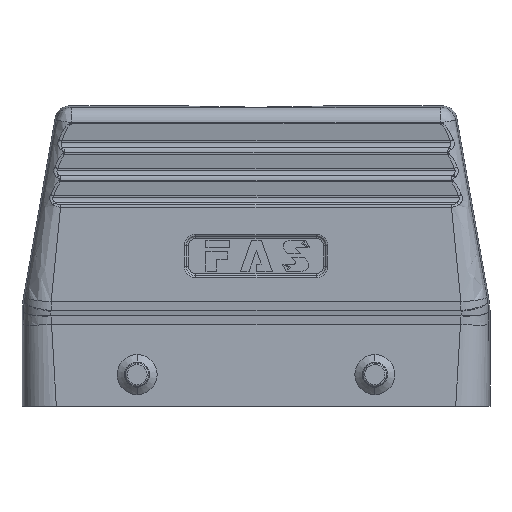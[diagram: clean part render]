
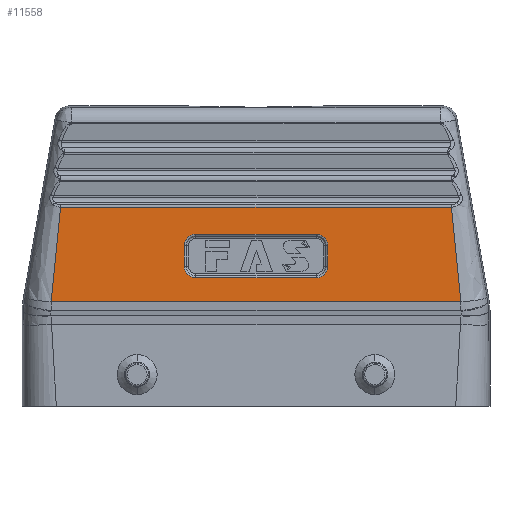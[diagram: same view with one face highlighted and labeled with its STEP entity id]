
A CAD part, front view. The second image highlights one B-rep face of the part: STEP entity #11558.
In plain terms, the highlighted planar face has unit normal (0, -1, 0).
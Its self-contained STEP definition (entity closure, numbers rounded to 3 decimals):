
#115 = EDGE_CURVE ( 'NONE', #3088, #12191, #2768, .T. ) ;
#676 = CARTESIAN_POINT ( 'NONE',  ( -14.366, -22., 32. ) ) ;
#1016 = CARTESIAN_POINT ( 'NONE',  ( -39.457, -22., 36.619 ) ) ;
#1243 = DIRECTION ( 'NONE',  ( -1., 0., 0. ) ) ;
#1332 = LINE ( 'NONE', #4822, #12188 ) ;
#1801 =( BOUNDED_CURVE ( )  B_SPLINE_CURVE ( 3, ( #2919, #10345, #19950, #10422 ),
 .UNSPECIFIED., .F., .T. ) 
 B_SPLINE_CURVE_WITH_KNOTS ( ( 4, 4 ),
 ( 0., 1. ),
 .UNSPECIFIED. ) 
 CURVE ( )  GEOMETRIC_REPRESENTATION_ITEM ( )  RATIONAL_B_SPLINE_CURVE ( ( 1., 0.805, 0.805, 1. ) ) 
 REPRESENTATION_ITEM ( '' )  );
#1921 = B_SPLINE_CURVE_WITH_KNOTS ( 'NONE', 3,
 ( #10735, #12408, #18010, #16168, #1016, #14607 ),
 .UNSPECIFIED., .F., .F.,
 ( 4, 2, 4 ),
 ( 0., 0.5, 1. ),
 .UNSPECIFIED. ) ;
#2361 = EDGE_CURVE ( 'NONE', #17192, #18762, #24209, .T. ) ;
#2383 = FACE_BOUND ( 'NONE', #10332, .T. ) ;
#2384 = CARTESIAN_POINT ( 'NONE',  ( -12., -22., 34.366 ) ) ;
#2768 =( BOUNDED_CURVE ( )  B_SPLINE_CURVE ( 3, ( #10434, #12542, #12197, #14141 ),
 .UNSPECIFIED., .F., .T. ) 
 B_SPLINE_CURVE_WITH_KNOTS ( ( 4, 4 ),
 ( 0., 1. ),
 .UNSPECIFIED. ) 
 CURVE ( )  GEOMETRIC_REPRESENTATION_ITEM ( )  RATIONAL_B_SPLINE_CURVE ( ( 1., 0.805, 0.805, 1. ) ) 
 REPRESENTATION_ITEM ( '' )  );
#2919 = CARTESIAN_POINT ( 'NONE',  ( -14.366, -22., 28. ) ) ;
#3088 = VERTEX_POINT ( 'NONE', #24437 ) ;
#3141 = ORIENTED_EDGE ( 'NONE', *, *, #13045, .F. ) ;
#3814 = CARTESIAN_POINT ( 'NONE',  ( 39.847, -22., 33.477 ) ) ;
#4009 = DIRECTION ( 'NONE',  ( 0., 1., 0. ) ) ;
#4333 = EDGE_CURVE ( 'NONE', #6953, #8122, #1332, .T. ) ;
#4725 = CARTESIAN_POINT ( 'NONE',  ( -12., -22., 25.634 ) ) ;
#4822 = CARTESIAN_POINT ( 'NONE',  ( -13.25, -22., 39.758 ) ) ;
#5057 = CARTESIAN_POINT ( 'NONE',  ( -14.366, -22., 0. ) ) ;
#5158 = CARTESIAN_POINT ( 'NONE',  ( -13.25, -22., 34.366 ) ) ;
#5219 = DIRECTION ( 'NONE',  ( 0., 0., -1. ) ) ;
#5398 =( BOUNDED_CURVE ( )  B_SPLINE_CURVE ( 3, ( #12411, #14104, #18177, #676 ),
 .UNSPECIFIED., .F., .F. ) 
 B_SPLINE_CURVE_WITH_KNOTS ( ( 4, 4 ),
 ( 0., 1. ),
 .UNSPECIFIED. ) 
 CURVE ( )  GEOMETRIC_REPRESENTATION_ITEM ( )  RATIONAL_B_SPLINE_CURVE ( ( 1., 0.805, 0.805, 1. ) ) 
 REPRESENTATION_ITEM ( '' )  );
#5821 = EDGE_CURVE ( 'NONE', #8122, #17192, #20102, .T. ) ;
#6185 = CARTESIAN_POINT ( 'NONE',  ( -39.042, -22., 39.758 ) ) ;
#6750 = VERTEX_POINT ( 'NONE', #12787 ) ;
#6947 = EDGE_CURVE ( 'NONE', #6750, #17802, #14509, .T. ) ;
#6953 = VERTEX_POINT ( 'NONE', #6185 ) ;
#7002 = ORIENTED_EDGE ( 'NONE', *, *, #2361, .F. ) ;
#8008 = ORIENTED_EDGE ( 'NONE', *, *, #5821, .F. ) ;
#8122 = VERTEX_POINT ( 'NONE', #15205 ) ;
#8131 = CARTESIAN_POINT ( 'NONE',  ( 14.366, -22., 26.614 ) ) ;
#8312 = CARTESIAN_POINT ( 'NONE',  ( -14.366, -22., 32. ) ) ;
#8323 = EDGE_CURVE ( 'NONE', #11710, #22933, #24400, .T. ) ;
#9194 = ORIENTED_EDGE ( 'NONE', *, *, #19189, .F. ) ;
#9298 = CARTESIAN_POINT ( 'NONE',  ( 40.76, -22., 24.029 ) ) ;
#9362 = EDGE_CURVE ( 'NONE', #12191, #19607, #9678, .T. ) ;
#9488 = ORIENTED_EDGE ( 'NONE', *, *, #115, .F. ) ;
#9566 = CARTESIAN_POINT ( 'NONE',  ( 12., -22., 34.366 ) ) ;
#9678 = LINE ( 'NONE', #5158, #19568 ) ;
#9893 = CARTESIAN_POINT ( 'NONE',  ( 14.366, -22., 28. ) ) ;
#9930 = CARTESIAN_POINT ( 'NONE',  ( -14.366, -22., 28. ) ) ;
#10084 = CARTESIAN_POINT ( 'NONE',  ( -13.25, -22., 0. ) ) ;
#10181 = VECTOR ( 'NONE', #22093, 1000. ) ;
#10332 = EDGE_LOOP ( 'NONE', ( #24340, #23373, #3141, #15961, #9488, #9194, #18252, #18887 ) ) ;
#10345 = CARTESIAN_POINT ( 'NONE',  ( -14.366, -22., 26.614 ) ) ;
#10422 = CARTESIAN_POINT ( 'NONE',  ( -12., -22., 25.634 ) ) ;
#10434 = CARTESIAN_POINT ( 'NONE',  ( 14.366, -22., 32. ) ) ;
#10735 = CARTESIAN_POINT ( 'NONE',  ( -40.922, -22., 20.875 ) ) ;
#11558 = ADVANCED_FACE ( 'NONE', ( #2383, #12320 ), #15694, .F. ) ;
#11710 = VERTEX_POINT ( 'NONE', #8312 ) ;
#12188 = VECTOR ( 'NONE', #18122, 1000. ) ;
#12191 = VERTEX_POINT ( 'NONE', #9566 ) ;
#12197 = CARTESIAN_POINT ( 'NONE',  ( 13.386, -22., 34.366 ) ) ;
#12320 = FACE_OUTER_BOUND ( 'NONE', #20057, .T. ) ;
#12408 = CARTESIAN_POINT ( 'NONE',  ( -40.759, -22., 24.029 ) ) ;
#12411 = CARTESIAN_POINT ( 'NONE',  ( -12., -22., 34.366 ) ) ;
#12542 = CARTESIAN_POINT ( 'NONE',  ( 14.366, -22., 33.386 ) ) ;
#12787 = CARTESIAN_POINT ( 'NONE',  ( 12., -22., 25.634 ) ) ;
#13045 = EDGE_CURVE ( 'NONE', #19607, #11710, #5398, .T. ) ;
#13479 = AXIS2_PLACEMENT_3D ( 'NONE', #10084, #4009, #23362 ) ;
#13481 = ORIENTED_EDGE ( 'NONE', *, *, #4333, .F. ) ;
#13576 = CARTESIAN_POINT ( 'NONE',  ( 40.922, -22., 20.875 ) ) ;
#14104 = CARTESIAN_POINT ( 'NONE',  ( -13.386, -22., 34.366 ) ) ;
#14141 = CARTESIAN_POINT ( 'NONE',  ( 12., -22., 34.366 ) ) ;
#14509 =( BOUNDED_CURVE ( )  B_SPLINE_CURVE ( 3, ( #15766, #21509, #8131, #9893 ),
 .UNSPECIFIED., .F., .F. ) 
 B_SPLINE_CURVE_WITH_KNOTS ( ( 4, 4 ),
 ( 0., 1. ),
 .UNSPECIFIED. ) 
 CURVE ( )  GEOMETRIC_REPRESENTATION_ITEM ( )  RATIONAL_B_SPLINE_CURVE ( ( 1., 0.805, 0.805, 1. ) ) 
 REPRESENTATION_ITEM ( '' )  );
#14607 = CARTESIAN_POINT ( 'NONE',  ( -39.042, -22., 39.758 ) ) ;
#14821 = LINE ( 'NONE', #20883, #22557 ) ;
#15205 = CARTESIAN_POINT ( 'NONE',  ( 39.042, -22., 39.758 ) ) ;
#15694 = PLANE ( 'NONE',  #13479 ) ;
#15766 = CARTESIAN_POINT ( 'NONE',  ( 12., -22., 25.634 ) ) ;
#15786 = EDGE_CURVE ( 'NONE', #18762, #6953, #1921, .T. ) ;
#15961 = ORIENTED_EDGE ( 'NONE', *, *, #9362, .F. ) ;
#16033 = ORIENTED_EDGE ( 'NONE', *, *, #15786, .F. ) ;
#16168 = CARTESIAN_POINT ( 'NONE',  ( -39.846, -22., 33.477 ) ) ;
#17192 = VERTEX_POINT ( 'NONE', #13576 ) ;
#17802 = VERTEX_POINT ( 'NONE', #20970 ) ;
#18010 = CARTESIAN_POINT ( 'NONE',  ( -40.498, -22., 27.183 ) ) ;
#18099 = VECTOR ( 'NONE', #5219, 1000. ) ;
#18122 = DIRECTION ( 'NONE',  ( 1., 0., 0. ) ) ;
#18177 = CARTESIAN_POINT ( 'NONE',  ( -14.366, -22., 33.386 ) ) ;
#18206 = CARTESIAN_POINT ( 'NONE',  ( -253.848, -22., 20.875 ) ) ;
#18252 = ORIENTED_EDGE ( 'NONE', *, *, #6947, .F. ) ;
#18548 = VECTOR ( 'NONE', #18554, 1000. ) ;
#18554 = DIRECTION ( 'NONE',  ( -1., 0., 0. ) ) ;
#18762 = VERTEX_POINT ( 'NONE', #19332 ) ;
#18777 = CARTESIAN_POINT ( 'NONE',  ( 40.922, -22., 20.875 ) ) ;
#18887 = ORIENTED_EDGE ( 'NONE', *, *, #24258, .F. ) ;
#19102 = CARTESIAN_POINT ( 'NONE',  ( 39.042, -22., 39.758 ) ) ;
#19189 = EDGE_CURVE ( 'NONE', #17802, #3088, #14821, .T. ) ;
#19332 = CARTESIAN_POINT ( 'NONE',  ( -40.922, -22., 20.875 ) ) ;
#19568 = VECTOR ( 'NONE', #1243, 1000. ) ;
#19607 = VERTEX_POINT ( 'NONE', #2384 ) ;
#19950 = CARTESIAN_POINT ( 'NONE',  ( -13.386, -22., 25.634 ) ) ;
#20057 = EDGE_LOOP ( 'NONE', ( #7002, #8008, #13481, #16033 ) ) ;
#20079 = EDGE_CURVE ( 'NONE', #22933, #22547, #1801, .T. ) ;
#20102 = B_SPLINE_CURVE_WITH_KNOTS ( 'NONE', 3,
 ( #19102, #20832, #3814, #20669, #9298, #18777 ),
 .UNSPECIFIED., .F., .F.,
 ( 4, 2, 4 ),
 ( 0., 0.5, 1. ),
 .UNSPECIFIED. ) ;
#20669 = CARTESIAN_POINT ( 'NONE',  ( 40.498, -22., 27.182 ) ) ;
#20832 = CARTESIAN_POINT ( 'NONE',  ( 39.458, -22., 36.619 ) ) ;
#20883 = CARTESIAN_POINT ( 'NONE',  ( 14.366, -22., 0. ) ) ;
#20970 = CARTESIAN_POINT ( 'NONE',  ( 14.366, -22., 28. ) ) ;
#21509 = CARTESIAN_POINT ( 'NONE',  ( 13.386, -22., 25.634 ) ) ;
#22093 = DIRECTION ( 'NONE',  ( 1., 0., 0. ) ) ;
#22134 = LINE ( 'NONE', #23849, #10181 ) ;
#22547 = VERTEX_POINT ( 'NONE', #4725 ) ;
#22557 = VECTOR ( 'NONE', #23445, 1000. ) ;
#22933 = VERTEX_POINT ( 'NONE', #9930 ) ;
#23362 = DIRECTION ( 'NONE',  ( 0., 0., 1. ) ) ;
#23373 = ORIENTED_EDGE ( 'NONE', *, *, #8323, .F. ) ;
#23445 = DIRECTION ( 'NONE',  ( 0., 0., 1. ) ) ;
#23849 = CARTESIAN_POINT ( 'NONE',  ( -13.25, -22., 25.634 ) ) ;
#24209 = LINE ( 'NONE', #18206, #18548 ) ;
#24258 = EDGE_CURVE ( 'NONE', #22547, #6750, #22134, .T. ) ;
#24340 = ORIENTED_EDGE ( 'NONE', *, *, #20079, .F. ) ;
#24400 = LINE ( 'NONE', #5057, #18099 ) ;
#24437 = CARTESIAN_POINT ( 'NONE',  ( 14.366, -22., 32. ) ) ;
